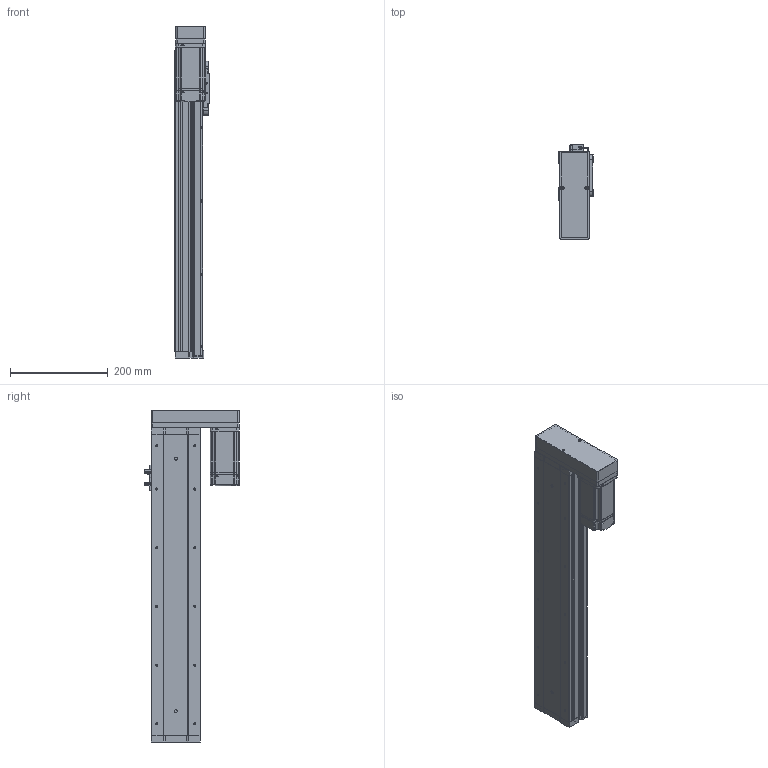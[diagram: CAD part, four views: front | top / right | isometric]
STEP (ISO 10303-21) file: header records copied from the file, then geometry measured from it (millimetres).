
FILE_DESCRIPTION (( 'STEP AP214' ), '1' );
FILE_NAME ('KSD100S-S450-MR-CR.STEP', '2019-09-03T01:11:56', ( '微软用户' ), ( '微软中国' ), 'SwSTEP 2.0', 'SolidWorks 2014', '' );
FILE_SCHEMA (( 'AUTOMOTIVE_DESIGN' ));
Length unit declared in the file: millimetre
Products named in the file (14): KSD100S-S450-MR-CR; MHMD042G1CA_2_03; U倰嫖萇EEㄜSX672; 悵誘欶酘衵殏; 100宽马达安装板连板左右折丝杆; 感应片100宽全封闭; 100宽马达安装板全封闭; 100宽端板全封闭; 100宽滚珠螺姆安装板1防护罩; 100宽滚珠螺姆安装板1; 100遵裔啣揤啣; 100遵裔啣450俴最; 100遵耜啣450俴最佪裝; 100宽底板全封闭450行程丝杆
Assembly tree (16 placements, depth 2):
  KSD100S-S450-MR-CR
    100宽底板全封闭450行程丝杆
    100遵耜啣450俴最佪裝  x2
    100遵裔啣450俴最
    100遵裔啣揤啣  x2
    100宽滚珠螺姆安装板1
    100宽滚珠螺姆安装板1防护罩
    100宽端板全封闭
    100宽马达安装板全封闭
    感应片100宽全封闭
    100宽马达安装板连板左右折丝杆
    悵誘欶酘衵殏
    U倰嫖萇EEㄜSX672  x2
    MHMD042G1CA_2_03
Bounding box: 70 x 193.7 x 678.5 mm (x, y, z)
Volume: 1447937.9 mm3; surface area: 669117.8 mm2
Topology: 15 solids, 16 shells, 1529 faces, 4256 edges, 2716 vertices
Faces by surface type: cylinder 669, plane 629, cone 213, bspline 18
Entity records: 54240 total; most frequent: CARTESIAN_POINT 8491, DIRECTION 7733, ORIENTED_EDGE 7164, EDGE_CURVE 3654, AXIS2_PLACEMENT_3D 2758, VERTEX_POINT 2422, VECTOR 2217, LINE 2217
